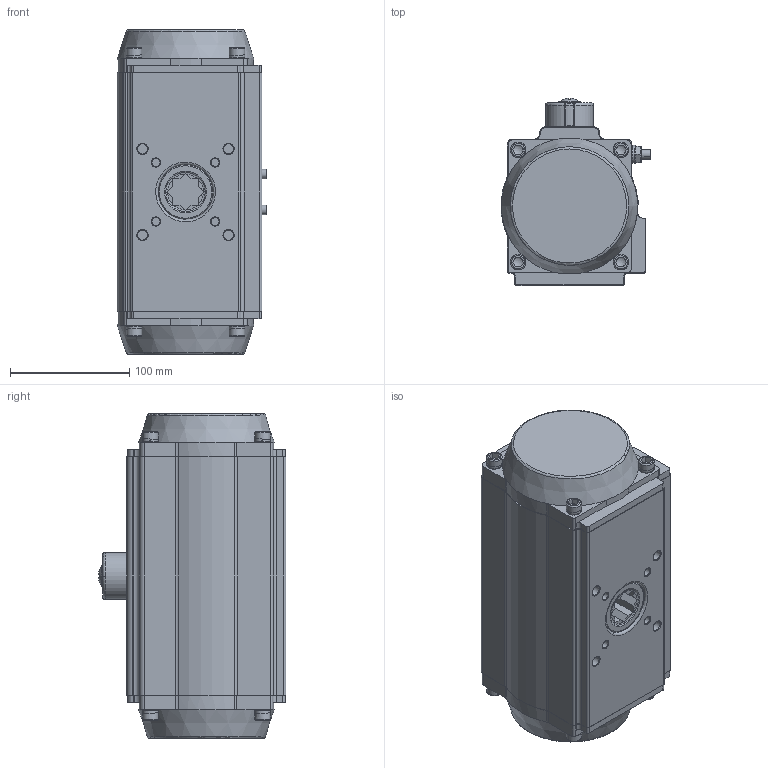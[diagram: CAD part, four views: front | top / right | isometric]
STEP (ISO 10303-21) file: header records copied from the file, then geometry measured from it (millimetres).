
FILE_DESCRIPTION(('STEP AP203'), '1');
FILE_NAME('3D_930-DA_SR-0197-22õ22', '', ('UNSPECIFIED'), ('UNSPECIFIED'), 'C3D Converter', 'C3D Toolkit', '');
FILE_SCHEMA(('CONFIG_CONTROL_DESIGN'));
Length unit declared in the file: millimetre
Assembly tree (44 placements, depth 3):
  (unnamed)
    (unnamed)
    (unnamed)
    (unnamed)
      (unnamed)
      (unnamed)
      (unnamed)
    (unnamed)  x2
    (unnamed)  x2
    (unnamed)  x2
    (unnamed)  x2
    (unnamed)
    (unnamed)
    (unnamed)
    (unnamed)
    (unnamed)
    (unnamed)
    (unnamed)
    (unnamed)
    (unnamed)
    (unnamed)
    (unnamed)  x8
    (unnamed)  x8
    (unnamed)
    (unnamed)
    (unnamed)
    (unnamed)
Bounding box: 125.39 x 157.12 x 272 mm (x, y, z)
Volume: 1538350 mm3; surface area: 379320.6 mm2
Topology: 43 solids, 43 shells, 1115 faces, 2788 edges, 1833 vertices
Faces by surface type: plane 488, cylinder 364, bspline 120, cone 93, torus 39, sphere 11
Full cylindrical faces by diameter (mm): 1.5 x2, 4.2 x8, 5 x1, 6 x1, 6.5 x3, 6.8 x12, 7 x2, 8 x14, 8.5 x4, 9 x8, 11.4 x2, 12 x2, 13 x8, 15 x2, 18 x1, 20 x2, 21 x2, 21.1 x1, 23.5 x1, 25 x9, 25.5 x1, 26.471 x8, 28 x4, 32 x1, 34 x2, 40.3 x1, 42 x2, 46 x4, 104 x2, 105 x1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
Entity records: 62051 total; most frequent: CARTESIAN_POINT 30882, ORIENTED_EDGE 4530, DIRECTION 4220, EDGE_CURVE 2265, AXIS2_PLACEMENT_3D 1676, VERTEX_POINT 1596, EDGE_LOOP 1229, FACE_BOUND 981
